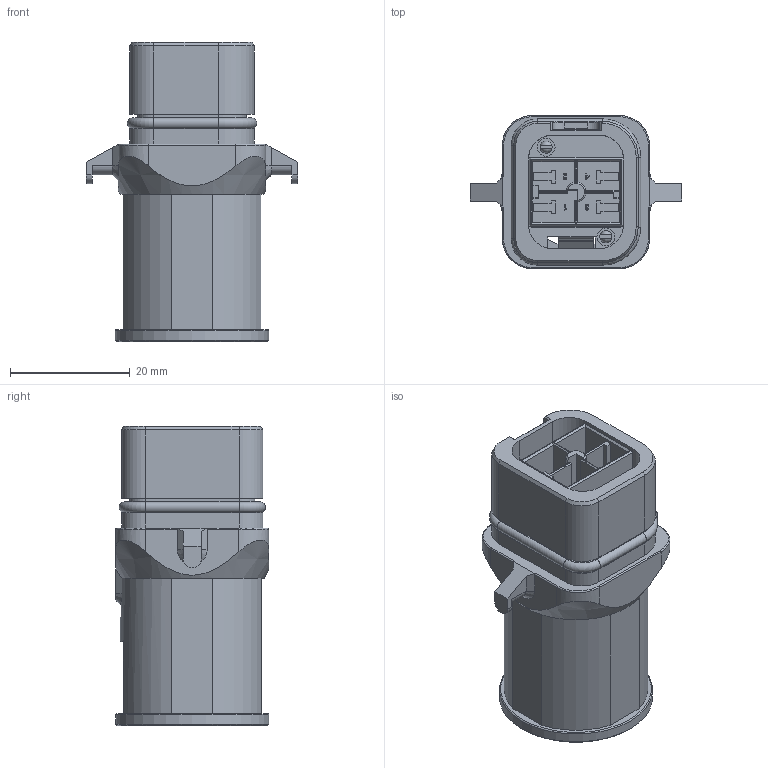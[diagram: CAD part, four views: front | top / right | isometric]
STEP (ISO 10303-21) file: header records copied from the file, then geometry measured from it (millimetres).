
FILE_DESCRIPTION (( 'STEP AP203' ), '1' );
FILE_NAME ('DK-3P04BTC-S(R1).STEP', '2025-11-10T04:36:51', ( '' ), ( '' ), 'SwSTEP 2.0', 'SolidWorks 2024', '' );
FILE_SCHEMA (( 'CONFIG_CONTROL_DESIGN' ));
Length unit declared in the file: millimetre
Products named in the file (1): DK-3P04BTC-S(R1)
Bounding box: 35.4 x 25.68 x 50 mm (x, y, z)
Volume: 13999.5 mm3; surface area: 12848.7 mm2
Topology: 1 solids, 1 shells, 971 faces, 2731 edges, 1795 vertices
Faces by surface type: plane 567, bspline 204, cylinder 163, cone 22, torus 10, sphere 5
Full cylindrical faces by diameter (mm): 2 x2, 3 x2, 4.2 x1, 25.6 x1
Entity records: 45654 total; most frequent: CARTESIAN_POINT 22739, ORIENTED_EDGE 5434, DIRECTION 3671, EDGE_CURVE 2717, VERTEX_POINT 1792, VECTOR 1757, LINE 1757, EDGE_LOOP 1029
